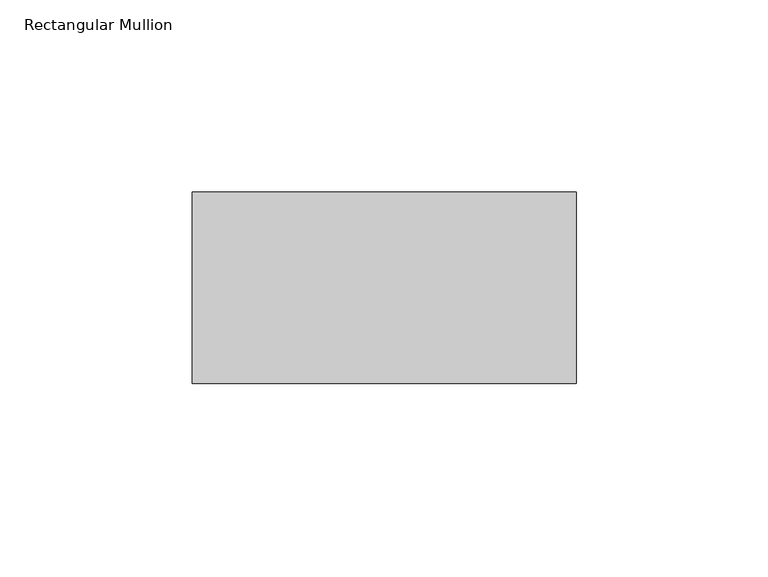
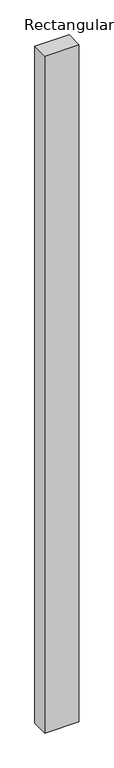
"""IFC4 building model written with IfcOpenShell, lengths in millimetres: member geometry, Rectangular Mullion : Mullion_Curtain Wall_Generic Showcase_50x100mm."""

from ifc_helpers import new_model, si_unit, frame, origin, place, context, project, spatial, polyline, outline, extrude, source, transform, mapped, element, save


def rectangular_mullion_a225a146(model_context):
    return source(origin(), model_context, "Body", "SweptSolid", [
        extrude(outline(polyline([(0.0, 50.0), (0.0, 0.0), (-100.0, 0.0), (-100.0, 50.0), (0.0, 50.0)])), frame((0.0, 0.0, -2096.0060738), z_axis=(0.0, 0.0, 1.0), x_axis=(1.0, 0.0, 0.0)), (0.0, 0.0, 1.0), 2096.0060738),
    ])


if __name__ == "__main__":
    model = new_model("IFC4")
    model_context = context("Model", 3, world=origin())
    ifc_project = project(units=[si_unit("LENGTHUNIT", "METRE", prefix="MILLI")], contexts=[model_context])
    site = spatial("IfcSite", under=ifc_project)
    building = spatial("IfcBuilding", under=site)
    placement = place(None, origin())
    rectangular_mullion_shape = rectangular_mullion_a225a146(model_context)
    element("IfcMember", 1, ObjectType="Rectangular Mullion : Mullion_Curtain Wall_Generic Showcase_50x100mm", at=placement, inside=building, context=model_context, shape_type="MappedRepresentation", body=[
        mapped(rectangular_mullion_shape, transform((0.0, 0.0, 0.0), x_axis=(1.0, 0.0, 0.0), y_axis=(0.0, 1.0, 0.0), z_axis=(0.0, 0.0, 1.0))),
    ])
    save(model, "model.ifc")
